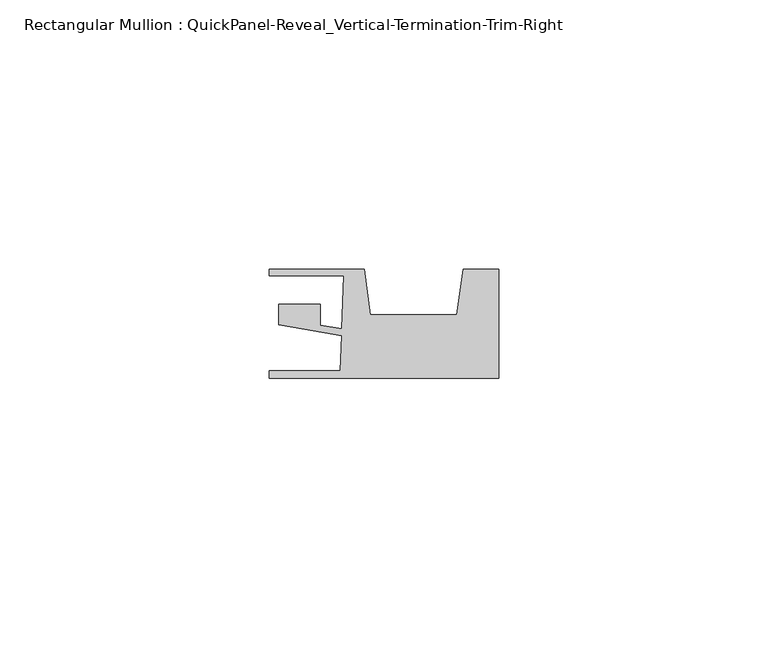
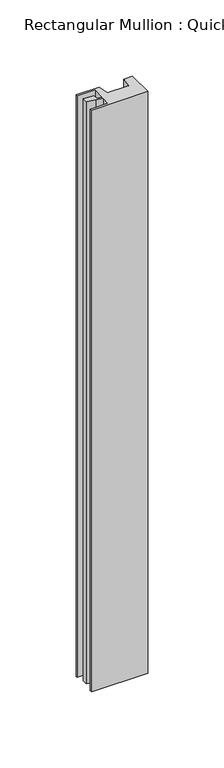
"""IFC4 building model written with IfcOpenShell, lengths in millimetres: member geometry, Rectangular Mullion : QuickPanel-Reveal_Vertical-Termination-Trim-Right."""

import ifcopenshell
import ifcopenshell.guid

model = None  # the IFC model being written
_history = None  # IfcOwnerHistory: only IFC2X3 demands one
_inside = {}  # id of a spatial element -> (the spatial element, [elements in it])
_under = {}  # id of a project, library or spatial element -> (it, [spatial elements below it])
_declared = {}  # id of a project -> (the project, [libraries it declares])
_typed = {}  # id of a type object -> (the type object, [elements of that type])
_made_of = {}  # id of a material, layer set ... -> (it, [elements and type objects made of it])


def new_model(schema):
    """Start an empty IFC model of exactly this schema.

    Asked for "IFC4X3", IfcOpenShell would pick the latest addendum, in which some entities
    have other attributes; the version numbers below select the first issue.
    IFC2X3 requires an IfcOwnerHistory on every rooted entity: one is made here for all.
    """
    global model, _history
    if schema == "IFC4X3":
        model = ifcopenshell.file(schema_version=(4, 3, 0, 0))
    else:
        model = ifcopenshell.file(schema=schema)
    _inside.clear()
    _under.clear()
    _declared.clear()
    _typed.clear()
    _made_of.clear()
    _history = None
    if model.schema == "IFC2X3":
        org = make("IfcOrganization", Name="unknown")
        user = make(
            "IfcPersonAndOrganization",
            ThePerson=make("IfcPerson", FamilyName="unknown"),
            TheOrganization=org,
        )
        app = make(
            "IfcApplication",
            ApplicationDeveloper=org,
            Version="unknown",
            ApplicationFullName="unknown",
            ApplicationIdentifier="unknown",
        )
        _history = make(
            "IfcOwnerHistory",
            OwningUser=user,
            OwningApplication=app,
            ChangeAction="ADDED",
            CreationDate=0,
        )
    return model


def make(cls, **values):
    """One entity of the class cls with the attributes given. An attribute that is None is left unset."""
    return model.create_entity(
        cls, **{name: value for name, value in values.items() if value is not None}
    )


def rooted(cls, **values):
    """An entity with a GlobalId (a new one), such as an element, a storey or a relation."""
    return make(cls, GlobalId=ifcopenshell.guid.new(), OwnerHistory=_history, **values)


def si_unit(unit_type, name, prefix=None):
    """IfcSIUnit, for example si_unit("LENGTHUNIT", "METRE", prefix="MILLI")."""
    return make("IfcSIUnit", UnitType=unit_type, Prefix=prefix, Name=name)


def assignment(units):
    """IfcUnitAssignment: the units of a project."""
    return None if units is None else make("IfcUnitAssignment", Units=units)


def point(xyz):
    """IfcCartesianPoint."""
    return None if xyz is None else make("IfcCartesianPoint", Coordinates=xyz)


def direction(xyz):
    """IfcDirection."""
    return None if xyz is None else make("IfcDirection", DirectionRatios=xyz)


def frame(location, z_axis=None, x_axis=None):
    """IfcAxis2Placement3D, a coordinate frame: its origin and axes. An axis left out is left unset."""
    return make(
        "IfcAxis2Placement3D",
        Location=point(location),
        Axis=direction(z_axis),
        RefDirection=direction(x_axis),
    )


def origin():
    """The frame at (0, 0, 0) with its axes left unset."""
    return frame((0.0, 0.0, 0.0))


def place(relative_to, where):
    """IfcLocalPlacement: puts the frame where relative to a parent placement (None: the world)."""
    return make(
        "IfcLocalPlacement", PlacementRelTo=relative_to, RelativePlacement=where
    )


def context(
    kind, dimensions, precision=None, world=None, true_north=None, identifier=None
):
    """IfcGeometricRepresentationContext, for example the 3D "Model" context."""
    return make(
        "IfcGeometricRepresentationContext",
        ContextIdentifier=identifier,
        ContextType=kind,
        CoordinateSpaceDimension=dimensions,
        Precision=precision,
        WorldCoordinateSystem=world,
        TrueNorth=true_north,
    )


def project(units=None, contexts=None):
    """IfcProject with its units and contexts."""
    return rooted(
        "IfcProject",
        Name="project",
        RepresentationContexts=contexts,
        UnitsInContext=assignment(units),
    )


def spatial(cls, under=None, at=None, **own):
    """A site, building, storey or space (cls), placed at a placement, below another one or the project."""
    s = rooted(cls, ObjectPlacement=at, **own)
    if under is not None:
        _under.setdefault(under.id(), (under, []))[1].append(s)
    return s


def polyline(points):
    """IfcPolyline through the points."""
    return make("IfcPolyline", Points=[point(p) for p in points])


def outline(outer, holes=None, kind="AREA"):
    """IfcArbitraryClosedProfileDef: a profile drawn as a closed curve; with holes, ...WithVoids."""
    if holes is None:
        return make("IfcArbitraryClosedProfileDef", ProfileType=kind, OuterCurve=outer)
    return make(
        "IfcArbitraryProfileDefWithVoids",
        ProfileType=kind,
        OuterCurve=outer,
        InnerCurves=holes,
    )


def extrude(swept, where, along, depth):
    """IfcExtrudedAreaSolid: the profile swept, set in the frame where, extruded along a direction by depth."""
    return make(
        "IfcExtrudedAreaSolid",
        SweptArea=swept,
        Position=where,
        ExtrudedDirection=direction(along),
        Depth=depth,
    )


def shape(context_of_items, identifier, shape_type, items):
    """IfcShapeRepresentation: the items that make up one representation, for example the "Body"."""
    return make(
        "IfcShapeRepresentation",
        ContextOfItems=context_of_items,
        RepresentationIdentifier=identifier,
        RepresentationType=shape_type,
        Items=items,
    )


def source(mapping_origin, context_of_items, identifier, shape_type, items):
    """IfcRepresentationMap: a shape defined once, which mapped items show again and again."""
    return make(
        "IfcRepresentationMap",
        MappingOrigin=mapping_origin,
        MappedRepresentation=shape(context_of_items, identifier, shape_type, items),
    )


def transform(
    local_origin,
    x_axis=None,
    y_axis=None,
    z_axis=None,
    scale=None,
    scale2=None,
    scale3=None,
    uniform=True,
):
    """IfcCartesianTransformationOperator3D, or its non-uniform kind. x_axis, y_axis, z_axis: its Axis1, 2, 3."""
    if uniform:
        return make(
            "IfcCartesianTransformationOperator3D",
            Axis1=direction(x_axis),
            Axis2=direction(y_axis),
            LocalOrigin=point(local_origin),
            Scale=scale,
            Axis3=direction(z_axis),
        )
    return make(
        "IfcCartesianTransformationOperator3DnonUniform",
        Axis1=direction(x_axis),
        Axis2=direction(y_axis),
        LocalOrigin=point(local_origin),
        Scale=scale,
        Axis3=direction(z_axis),
        Scale2=scale2,
        Scale3=scale3,
    )


def mapped(mapping_source, mapping_target):
    """IfcMappedItem: shows the shape of a source again, moved by a transform."""
    return make(
        "IfcMappedItem", MappingSource=mapping_source, MappingTarget=mapping_target
    )


def made_of(thing, what):
    """Note that an element or type object is made of a material, layer set ...; save() writes the relation."""
    if what is not None:
        _made_of.setdefault(what.id(), (what, []))[1].append(thing)
    return thing


def element(
    cls,
    number,
    at=None,
    inside=None,
    cuts=None,
    type_object=None,
    material=None,
    context=None,
    identifier="Body",
    shape_type=None,
    held_by="IfcProductDefinitionShape",
    body=None,
    shapes=None,
    **own,
):
    """One element of the class cls, such as IfcWall. Its Tag is "e" and its number.

    at: its placement. inside: the storey or other place that contains it. cuts: it is an
    opening in that element (IfcRelVoidsElement). A single representation is given by context,
    identifier, shape_type and body (its items); several are given by shapes. held_by: the class
    of the entity that holds the representations. save() writes the other relations.
    """
    e = rooted(cls, Tag="e%d" % number, ObjectPlacement=at, **own)
    if body is not None:
        shapes = [shape(context, identifier, shape_type, body)]
    if shapes is not None:
        e.Representation = make(held_by, Representations=shapes)
    if inside is not None:
        _inside.setdefault(inside.id(), (inside, []))[1].append(e)
    if cuts is not None:
        rooted(
            "IfcRelVoidsElement", RelatingBuildingElement=cuts, RelatedOpeningElement=e
        )
    if type_object is not None:
        _typed.setdefault(type_object.id(), (type_object, []))[1].append(e)
    return made_of(e, material)


def aggregate(whole, parts):
    """IfcRelAggregates: a whole, such as a stair, and the parts it consists of."""
    return rooted("IfcRelAggregates", RelatingObject=whole, RelatedObjects=parts)


def save(model, path):
    """Write the relations noted so far, then the file.

    IfcRelAggregates (storeys below a building ...), IfcRelContainedInSpatialStructure (elements
    in a storey), IfcRelDefinesByType, IfcRelAssociatesMaterial and IfcRelDeclares: one each for
    every whole, place, type object, material and project.
    """
    for whole, parts in _under.values():
        aggregate(whole, parts)
    for where, things in _inside.values():
        rooted(
            "IfcRelContainedInSpatialStructure",
            RelatedElements=things,
            RelatingStructure=where,
        )
    for kind, things in _typed.values():
        rooted("IfcRelDefinesByType", RelatedObjects=things, RelatingType=kind)
    for what, things in _made_of.values():
        rooted("IfcRelAssociatesMaterial", RelatedObjects=things, RelatingMaterial=what)
    for by, libraries in _declared.values():
        rooted("IfcRelDeclares", RelatingContext=by, RelatedDefinitions=libraries)
    model.write(path)


def rectangular_mullion_quickpanel_reveal_vertical_termination_5b6c39c5(model_context):
    return source(origin(), model_context, "Body", "SweptSolid", [
        extrude(outline(polyline([(-42.7011763, -8.095605), (-42.7011763, -6.6935423), (-29.4602636, -6.6935423), (-29.2334784, -0.1992641), (-34.4837593, 0.7008023), (-40.919092, 1.8040245), (-40.919092, 5.6493034), (-33.1743189, 5.6493034), (-33.1743189, 1.7648465), (-29.1887499, 1.0815922), (-28.8448229, 10.9303752), (-42.7011763, 10.9303752), (-42.7011763, 12.1803727), (-25.0522037, 12.1803727), (-23.8634859, 3.7222065), (-7.8503594, 3.7222065), (-6.6616417, 12.1803727), (0.0, 12.1803727), (0.0, -8.095605), (-42.7011763, -8.095605)])), frame((0.0, 0.0, -466.5413759), z_axis=(0.0, 0.0, 1.0), x_axis=(1.0, 0.0, 0.0)), (0.0, 0.0, 1.0), 466.5413759),
    ])


if __name__ == "__main__":
    model = new_model("IFC4")
    model_context = context("Model", 3, world=origin())
    ifc_project = project(units=[si_unit("LENGTHUNIT", "METRE", prefix="MILLI")], contexts=[model_context])
    site = spatial("IfcSite", under=ifc_project)
    building = spatial("IfcBuilding", under=site)
    placement = place(None, origin())
    rectangular_mullion_quickpanel_reveal_vertical_termination_shape = rectangular_mullion_quickpanel_reveal_vertical_termination_5b6c39c5(model_context)
    element("IfcMember", 1, ObjectType="Rectangular Mullion : QuickPanel-Reveal_Vertical-Termination-Trim-Right", at=placement, inside=building, context=model_context, shape_type="MappedRepresentation", body=[
        mapped(rectangular_mullion_quickpanel_reveal_vertical_termination_shape, transform((0.0, 0.0, 0.0), x_axis=(1.0, 0.0, 0.0), y_axis=(0.0, 1.0, 0.0), z_axis=(0.0, 0.0, 1.0))),
    ])
    save(model, "model.ifc")
